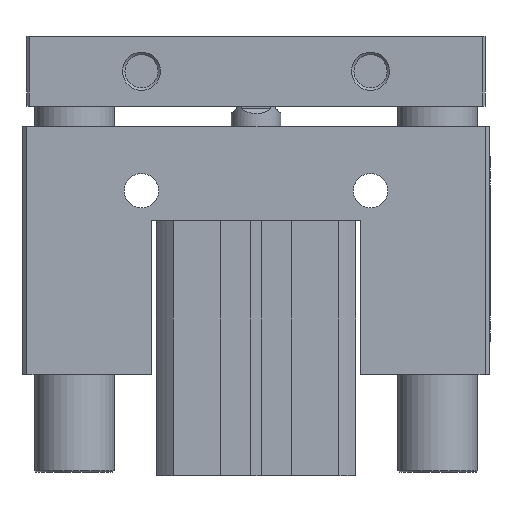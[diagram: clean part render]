
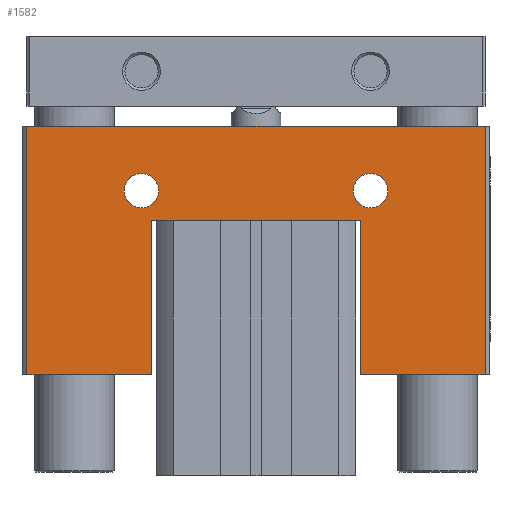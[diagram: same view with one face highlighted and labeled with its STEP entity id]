
A CAD part, front view. The second image highlights one B-rep face of the part: STEP entity #1582.
In plain terms, the highlighted planar face has unit normal (0, -1, 0).
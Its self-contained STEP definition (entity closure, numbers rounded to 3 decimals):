
#1311=CARTESIAN_POINT('',(-48.524,-18.716,70.2));
#1312=VERTEX_POINT('',#1311);
#1319=CARTESIAN_POINT('',(43.476,-18.716,70.2));
#1320=VERTEX_POINT('',#1319);
#1321=CARTESIAN_POINT('',(-48.524,-18.716,70.2));
#1322=DIRECTION('',(1.0,0.0,0.0));
#1323=VECTOR('',#1322,92.);
#1324=LINE('',#1321,#1323);
#1325=EDGE_CURVE('',#1312,#1320,#1324,.T.);
#1488=CARTESIAN_POINT('',(-48.524,-18.716,20.2));
#1489=VERTEX_POINT('',#1488);
#1496=CARTESIAN_POINT('',(-48.524,-18.716,20.2));
#1497=DIRECTION('',(0.0,0.0,1.0));
#1498=VECTOR('',#1497,50.0);
#1499=LINE('',#1496,#1498);
#1500=EDGE_CURVE('',#1489,#1312,#1499,.T.);
#1505=CARTESIAN_POINT('',(-2.524,-18.716,47.237));
#1506=DIRECTION('',(0.0,1.0,0.0));
#1507=DIRECTION('',(0.0,0.0,1.0));
#1508=AXIS2_PLACEMENT_3D('',#1505,#1506,#1507);
#1509=PLANE('',#1508);
#1510=ORIENTED_EDGE('',*,*,#1500,.F.);
#1511=CARTESIAN_POINT('',(-23.524,-18.716,20.2));
#1512=VERTEX_POINT('',#1511);
#1513=CARTESIAN_POINT('',(-23.524,-18.716,20.2));
#1514=DIRECTION('',(-1.0,0.0,0.0));
#1515=VECTOR('',#1514,25.);
#1516=LINE('',#1513,#1515);
#1517=EDGE_CURVE('',#1512,#1489,#1516,.T.);
#1518=ORIENTED_EDGE('',*,*,#1517,.F.);
#1519=CARTESIAN_POINT('',(-23.524,-18.716,51.2));
#1520=VERTEX_POINT('',#1519);
#1521=CARTESIAN_POINT('',(-23.524,-18.716,51.2));
#1522=DIRECTION('',(0.0,0.0,-1.0));
#1523=VECTOR('',#1522,31.0);
#1524=LINE('',#1521,#1523);
#1525=EDGE_CURVE('',#1520,#1512,#1524,.T.);
#1526=ORIENTED_EDGE('',*,*,#1525,.F.);
#1527=CARTESIAN_POINT('',(18.476,-18.716,51.2));
#1528=VERTEX_POINT('',#1527);
#1529=CARTESIAN_POINT('',(18.476,-18.716,51.2));
#1530=DIRECTION('',(-1.0,0.0,0.0));
#1531=VECTOR('',#1530,42.);
#1532=LINE('',#1529,#1531);
#1533=EDGE_CURVE('',#1528,#1520,#1532,.T.);
#1534=ORIENTED_EDGE('',*,*,#1533,.F.);
#1535=CARTESIAN_POINT('',(18.476,-18.716,20.2));
#1536=VERTEX_POINT('',#1535);
#1537=CARTESIAN_POINT('',(18.476,-18.716,20.2));
#1538=DIRECTION('',(0.0,0.0,1.0));
#1539=VECTOR('',#1538,31.0);
#1540=LINE('',#1537,#1539);
#1541=EDGE_CURVE('',#1536,#1528,#1540,.T.);
#1542=ORIENTED_EDGE('',*,*,#1541,.F.);
#1543=CARTESIAN_POINT('',(43.476,-18.716,20.2));
#1544=VERTEX_POINT('',#1543);
#1545=CARTESIAN_POINT('',(43.476,-18.716,20.2));
#1546=DIRECTION('',(-1.0,0.0,0.0));
#1547=VECTOR('',#1546,25.);
#1548=LINE('',#1545,#1547);
#1549=EDGE_CURVE('',#1544,#1536,#1548,.T.);
#1550=ORIENTED_EDGE('',*,*,#1549,.F.);
#1551=CARTESIAN_POINT('',(43.476,-18.716,70.2));
#1552=DIRECTION('',(0.0,0.0,-1.0));
#1553=VECTOR('',#1552,50.0);
#1554=LINE('',#1551,#1553);
#1555=EDGE_CURVE('',#1320,#1544,#1554,.T.);
#1556=ORIENTED_EDGE('',*,*,#1555,.F.);
#1557=ORIENTED_EDGE('',*,*,#1325,.F.);
#1558=EDGE_LOOP('',(#1510,#1518,#1526,#1534,#1542,#1550,#1556,#1557));
#1559=FACE_OUTER_BOUND('',#1558,.T.);
#1560=CARTESIAN_POINT('',(-28.974,-18.716,57.2));
#1561=VERTEX_POINT('',#1560);
#1562=CARTESIAN_POINT('',(-25.524,-18.716,57.2));
#1563=DIRECTION('',(0.0,1.0,0.0));
#1564=DIRECTION('',(1.0,0.0,0.0));
#1565=AXIS2_PLACEMENT_3D('',#1562,#1563,#1564);
#1566=CIRCLE('',#1565,3.45);
#1567=EDGE_CURVE('',#1561,#1561,#1566,.T.);
#1568=ORIENTED_EDGE('',*,*,#1567,.T.);
#1569=EDGE_LOOP('',(#1568));
#1570=FACE_BOUND('',#1569,.T.);
#1571=CARTESIAN_POINT('',(17.026,-18.716,57.2));
#1572=VERTEX_POINT('',#1571);
#1573=CARTESIAN_POINT('',(20.476,-18.716,57.2));
#1574=DIRECTION('',(0.0,1.0,0.0));
#1575=DIRECTION('',(1.0,0.0,0.0));
#1576=AXIS2_PLACEMENT_3D('',#1573,#1574,#1575);
#1577=CIRCLE('',#1576,3.45);
#1578=EDGE_CURVE('',#1572,#1572,#1577,.T.);
#1579=ORIENTED_EDGE('',*,*,#1578,.T.);
#1580=EDGE_LOOP('',(#1579));
#1581=FACE_BOUND('',#1580,.T.);
#1582=ADVANCED_FACE('',(#1559,#1570,#1581),#1509,.F.);
